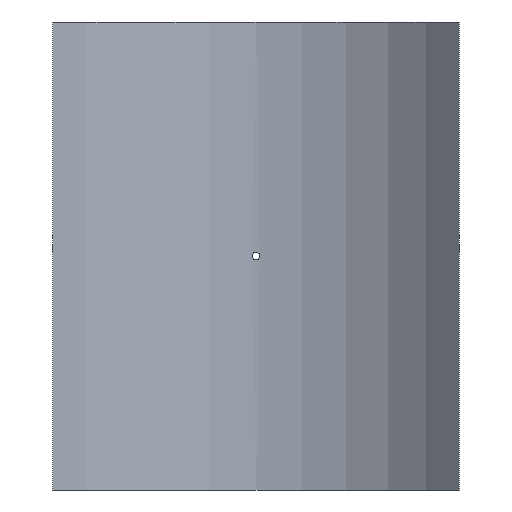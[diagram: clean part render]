
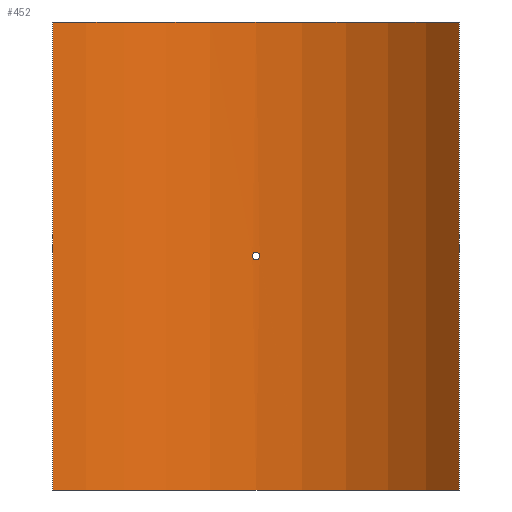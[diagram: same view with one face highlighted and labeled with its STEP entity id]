
A CAD part, front view. The second image highlights one B-rep face of the part: STEP entity #452.
In plain terms, the highlighted cylindrical face has radius 355 mm (diameter 710 mm), a partial arc.
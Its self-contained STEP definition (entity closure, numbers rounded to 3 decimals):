
#19=B_SPLINE_CURVE_WITH_KNOTS('',3,(#788,#789,#790,#791,#792,#793,#794,
#795,#796,#797,#798,#799,#800,#801,#802,#803,#804,#805,#806,#807,#808,#809,
#810,#811,#812,#813,#814,#815,#816,#817,#818,#819,#820,#821),
 .UNSPECIFIED.,.T.,.F.,(4,2,2,2,2,2,2,2,2,2,2,2,2,2,2,2,4),(0.,0.181,
0.362,0.542,0.723,0.904,
1.085,1.266,1.446,1.627,1.808,
1.989,2.17,2.351,2.531,2.712,
2.893),.UNSPECIFIED.);
#43=LINE('',#1097,#62);
#44=LINE('',#1100,#63);
#62=VECTOR('',#661,10.);
#63=VECTOR('',#664,10.);
#76=CYLINDRICAL_SURFACE('',#530,355.);
#88=FACE_BOUND('',#167,.T.);
#127=FACE_OUTER_BOUND('',#166,.T.);
#166=EDGE_LOOP('',(#405,#406,#407,#408));
#167=EDGE_LOOP('',(#409));
#201=CIRCLE('',#529,355.);
#202=CIRCLE('',#531,355.);
#219=VERTEX_POINT('',#786);
#242=VERTEX_POINT('',#1090);
#243=VERTEX_POINT('',#1092);
#244=VERTEX_POINT('',#1096);
#245=VERTEX_POINT('',#1098);
#267=EDGE_CURVE('',#219,#219,#19,.T.);
#299=EDGE_CURVE('',#242,#243,#201,.T.);
#301=EDGE_CURVE('',#244,#242,#43,.T.);
#302=EDGE_CURVE('',#245,#244,#202,.T.);
#303=EDGE_CURVE('',#245,#243,#44,.T.);
#405=ORIENTED_EDGE('',*,*,#301,.F.);
#406=ORIENTED_EDGE('',*,*,#302,.F.);
#407=ORIENTED_EDGE('',*,*,#303,.T.);
#408=ORIENTED_EDGE('',*,*,#299,.F.);
#409=ORIENTED_EDGE('',*,*,#267,.T.);
#452=ADVANCED_FACE('',(#127,#88),#76,.F.);
#529=AXIS2_PLACEMENT_3D('',#1093,#656,#657);
#530=AXIS2_PLACEMENT_3D('',#1095,#659,#660);
#531=AXIS2_PLACEMENT_3D('',#1099,#662,#663);
#656=DIRECTION('center_axis',(0.,0.,1.));
#657=DIRECTION('ref_axis',(0.746,0.665,0.));
#659=DIRECTION('center_axis',(0.,0.,1.));
#660=DIRECTION('ref_axis',(0.746,0.665,0.));
#661=DIRECTION('',(0.,0.,-1.));
#662=DIRECTION('center_axis',(0.,0.,-1.));
#663=DIRECTION('ref_axis',(0.746,0.665,0.));
#664=DIRECTION('',(0.,0.,-1.));
#786=CARTESIAN_POINT('',(4.8,354.968,0.));
#788=CARTESIAN_POINT('Ctrl Pts',(4.8,354.968,0.));
#789=CARTESIAN_POINT('Ctrl Pts',(4.8,354.968,-0.603));
#790=CARTESIAN_POINT('Ctrl Pts',(4.68,354.969,-1.246));
#791=CARTESIAN_POINT('Ctrl Pts',(4.19,354.975,-2.428));
#792=CARTESIAN_POINT('Ctrl Pts',(3.82,354.98,-2.968));
#793=CARTESIAN_POINT('Ctrl Pts',(2.968,354.988,-3.82));
#794=CARTESIAN_POINT('Ctrl Pts',(2.428,354.992,-4.19));
#795=CARTESIAN_POINT('Ctrl Pts',(1.246,354.998,-4.68));
#796=CARTESIAN_POINT('Ctrl Pts',(0.603,355.,-4.8));
#797=CARTESIAN_POINT('Ctrl Pts',(-0.603,355.,-4.8));
#798=CARTESIAN_POINT('Ctrl Pts',(-1.246,354.998,-4.68));
#799=CARTESIAN_POINT('Ctrl Pts',(-2.428,354.992,-4.19));
#800=CARTESIAN_POINT('Ctrl Pts',(-2.968,354.988,-3.82));
#801=CARTESIAN_POINT('Ctrl Pts',(-3.82,354.98,-2.968));
#802=CARTESIAN_POINT('Ctrl Pts',(-4.19,354.975,-2.428));
#803=CARTESIAN_POINT('Ctrl Pts',(-4.68,354.969,-1.246));
#804=CARTESIAN_POINT('Ctrl Pts',(-4.8,354.968,-0.603));
#805=CARTESIAN_POINT('Ctrl Pts',(-4.8,354.968,0.603));
#806=CARTESIAN_POINT('Ctrl Pts',(-4.68,354.969,1.246));
#807=CARTESIAN_POINT('Ctrl Pts',(-4.19,354.975,2.428));
#808=CARTESIAN_POINT('Ctrl Pts',(-3.82,354.98,2.968));
#809=CARTESIAN_POINT('Ctrl Pts',(-2.968,354.988,3.82));
#810=CARTESIAN_POINT('Ctrl Pts',(-2.428,354.992,4.19));
#811=CARTESIAN_POINT('Ctrl Pts',(-1.246,354.998,4.68));
#812=CARTESIAN_POINT('Ctrl Pts',(-0.603,355.,4.8));
#813=CARTESIAN_POINT('Ctrl Pts',(0.603,355.,4.8));
#814=CARTESIAN_POINT('Ctrl Pts',(1.246,354.998,4.68));
#815=CARTESIAN_POINT('Ctrl Pts',(2.428,354.992,4.19));
#816=CARTESIAN_POINT('Ctrl Pts',(2.968,354.988,3.82));
#817=CARTESIAN_POINT('Ctrl Pts',(3.82,354.98,2.968));
#818=CARTESIAN_POINT('Ctrl Pts',(4.19,354.975,2.428));
#819=CARTESIAN_POINT('Ctrl Pts',(4.68,354.969,1.246));
#820=CARTESIAN_POINT('Ctrl Pts',(4.8,354.968,0.603));
#821=CARTESIAN_POINT('Ctrl Pts',(4.8,354.968,0.));
#1090=CARTESIAN_POINT('',(265.,236.22,-305.));
#1092=CARTESIAN_POINT('',(-265.,236.22,-305.));
#1093=CARTESIAN_POINT('Origin',(0.,0.,
-305.));
#1095=CARTESIAN_POINT('Origin',(0.,0.,
0.));
#1096=CARTESIAN_POINT('',(265.,236.22,305.));
#1097=CARTESIAN_POINT('',(265.,236.22,0.));
#1098=CARTESIAN_POINT('',(-265.,236.22,305.));
#1099=CARTESIAN_POINT('Origin',(0.,0.,
305.));
#1100=CARTESIAN_POINT('',(-265.,236.22,0.));
